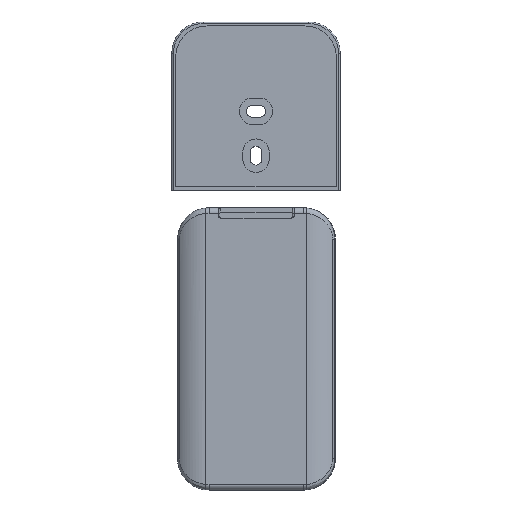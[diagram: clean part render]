
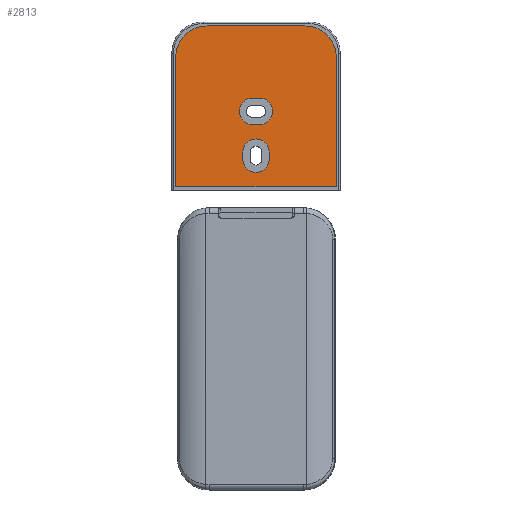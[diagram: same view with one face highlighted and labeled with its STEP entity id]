
A CAD part, front view. The second image highlights one B-rep face of the part: STEP entity #2813.
In plain terms, the highlighted planar face has unit normal (0, -1, 0).
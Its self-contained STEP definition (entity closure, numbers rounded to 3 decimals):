
#137 = EDGE_CURVE ( 'NONE', #12993, #9748, #4459, .T. ) ;
#138 = VECTOR ( 'NONE', #2324, 1000. ) ;
#231 = EDGE_CURVE ( 'NONE', #13705, #2155, #1033, .T. ) ;
#303 = EDGE_CURVE ( 'NONE', #7928, #1134, #5798, .T. ) ;
#368 = CARTESIAN_POINT ( 'NONE',  ( 31.075, 0.75, 10. ) ) ;
#423 = CARTESIAN_POINT ( 'NONE',  ( 11.25, 0.75, 42.5 ) ) ;
#471 = DIRECTION ( 'NONE',  ( -1., 0., 0. ) ) ;
#493 = EDGE_CURVE ( 'NONE', #1277, #12993, #13879, .T. ) ;
#551 = EDGE_CURVE ( 'NONE', #8100, #10896, #3564, .T. ) ;
#567 = EDGE_CURVE ( 'NONE', #10896, #11005, #1774, .T. ) ;
#618 = DIRECTION ( 'NONE',  ( 0., 0., 1. ) ) ;
#694 = DIRECTION ( 'NONE',  ( 1., 0., 0. ) ) ;
#744 = LINE ( 'NONE', #6277, #13115 ) ;
#920 = EDGE_CURVE ( 'NONE', #13806, #7619, #9555, .T. ) ;
#1033 = LINE ( 'NONE', #12011, #138 ) ;
#1052 = AXIS2_PLACEMENT_3D ( 'NONE', #2623, #7934, #9076 ) ;
#1096 = VECTOR ( 'NONE', #12047, 1000. ) ;
#1134 = VERTEX_POINT ( 'NONE', #7498 ) ;
#1277 = VERTEX_POINT ( 'NONE', #4612 ) ;
#1321 = EDGE_LOOP ( 'NONE', ( #4180, #6788, #5573, #4361 ) ) ;
#1367 = DIRECTION ( 'NONE',  ( 0., -1., 0. ) ) ;
#1774 = CIRCLE ( 'NONE', #8971, 4.2 ) ;
#1808 = VERTEX_POINT ( 'NONE', #5285 ) ;
#1838 = CARTESIAN_POINT ( 'NONE',  ( 52.5, 0.75, 1.25 ) ) ;
#1985 = DIRECTION ( 'NONE',  ( 0., 1., 0. ) ) ;
#2009 = CARTESIAN_POINT ( 'NONE',  ( 28., 0.75, 25.25 ) ) ;
#2155 = VERTEX_POINT ( 'NONE', #8448 ) ;
#2324 = DIRECTION ( 'NONE',  ( 0., 0., 1. ) ) ;
#2394 = ORIENTED_EDGE ( 'NONE', *, *, #8987, .F. ) ;
#2600 = ORIENTED_EDGE ( 'NONE', *, *, #4594, .T. ) ;
#2623 = CARTESIAN_POINT ( 'NONE',  ( 26.875, 0.75, 10. ) ) ;
#2751 = ORIENTED_EDGE ( 'NONE', *, *, #493, .F. ) ;
#2813 = ADVANCED_FACE ( 'NONE', ( #12809, #12952, #3263 ), #7586, .F. ) ;
#3113 = AXIS2_PLACEMENT_3D ( 'NONE', #2009, #5421, #10656 ) ;
#3263 = FACE_OUTER_BOUND ( 'NONE', #3693, .T. ) ;
#3564 = LINE ( 'NONE', #7742, #1096 ) ;
#3625 = ORIENTED_EDGE ( 'NONE', *, *, #231, .F. ) ;
#3693 = EDGE_LOOP ( 'NONE', ( #4208, #4481, #11178, #2600, #12225, #5404 ) ) ;
#3778 = EDGE_CURVE ( 'NONE', #7619, #7928, #6759, .T. ) ;
#3864 = CARTESIAN_POINT ( 'NONE',  ( 1.25, 0.75, 1.25 ) ) ;
#4089 = CARTESIAN_POINT ( 'NONE',  ( 1.25, 0.75, 42.5 ) ) ;
#4180 = ORIENTED_EDGE ( 'NONE', *, *, #567, .F. ) ;
#4208 = ORIENTED_EDGE ( 'NONE', *, *, #3778, .T. ) ;
#4361 = ORIENTED_EDGE ( 'NONE', *, *, #7147, .F. ) ;
#4459 = CIRCLE ( 'NONE', #7854, 4.2 ) ;
#4481 = ORIENTED_EDGE ( 'NONE', *, *, #303, .T. ) ;
#4525 = CIRCLE ( 'NONE', #6317, 4.2 ) ;
#4552 = CARTESIAN_POINT ( 'NONE',  ( 26.875, 0.75, 5.8 ) ) ;
#4594 = EDGE_CURVE ( 'NONE', #7039, #13025, #5724, .T. ) ;
#4612 = CARTESIAN_POINT ( 'NONE',  ( 22.675, 0.75, 12.25 ) ) ;
#5169 = AXIS2_PLACEMENT_3D ( 'NONE', #6439, #12869, #10760 ) ;
#5282 = CARTESIAN_POINT ( 'NONE',  ( 52.5, 0.75, 42.5 ) ) ;
#5285 = CARTESIAN_POINT ( 'NONE',  ( 28., 0.75, 21.05 ) ) ;
#5404 = ORIENTED_EDGE ( 'NONE', *, *, #920, .T. ) ;
#5421 = DIRECTION ( 'NONE',  ( 0., -1., 0. ) ) ;
#5573 = ORIENTED_EDGE ( 'NONE', *, *, #11583, .F. ) ;
#5683 = CARTESIAN_POINT ( 'NONE',  ( 25.75, 0.75, 29.45 ) ) ;
#5724 = LINE ( 'NONE', #3864, #13210 ) ;
#5798 = LINE ( 'NONE', #12155, #6955 ) ;
#5935 = EDGE_LOOP ( 'NONE', ( #2394, #3625, #12272, #10941, #2751 ) ) ;
#6018 = DIRECTION ( 'NONE',  ( 0., -1., 0. ) ) ;
#6054 = CARTESIAN_POINT ( 'NONE',  ( 28., 0.75, 29.45 ) ) ;
#6277 = CARTESIAN_POINT ( 'NONE',  ( 1.25, 0.75, 1.25 ) ) ;
#6314 = DIRECTION ( 'NONE',  ( 1., 0., 0. ) ) ;
#6317 = AXIS2_PLACEMENT_3D ( 'NONE', #7278, #6018, #8338 ) ;
#6439 = CARTESIAN_POINT ( 'NONE',  ( 42.5, 0.75, 42.5 ) ) ;
#6531 = CARTESIAN_POINT ( 'NONE',  ( 42.5, 0.75, 42.5 ) ) ;
#6535 = CIRCLE ( 'NONE', #3113, 4.2 ) ;
#6759 = CIRCLE ( 'NONE', #5169, 10. ) ;
#6782 = CARTESIAN_POINT ( 'NONE',  ( 42.5, 0.75, 52.5 ) ) ;
#6788 = ORIENTED_EDGE ( 'NONE', *, *, #551, .F. ) ;
#6814 = CARTESIAN_POINT ( 'NONE',  ( 22.675, 0.75, 10. ) ) ;
#6929 = EDGE_CURVE ( 'NONE', #9748, #13705, #7170, .T. ) ;
#6955 = VECTOR ( 'NONE', #471, 1000. ) ;
#6963 = VECTOR ( 'NONE', #694, 1000. ) ;
#7039 = VERTEX_POINT ( 'NONE', #4089 ) ;
#7147 = EDGE_CURVE ( 'NONE', #11005, #1808, #13717, .T. ) ;
#7170 = CIRCLE ( 'NONE', #1052, 4.2 ) ;
#7267 = DIRECTION ( 'NONE',  ( 1., 0., 0. ) ) ;
#7278 = CARTESIAN_POINT ( 'NONE',  ( 26.875, 0.75, 12.25 ) ) ;
#7300 = DIRECTION ( 'NONE',  ( 0., 0., -1. ) ) ;
#7498 = CARTESIAN_POINT ( 'NONE',  ( 11.25, 0.75, 52.5 ) ) ;
#7586 = PLANE ( 'NONE',  #11036 ) ;
#7619 = VERTEX_POINT ( 'NONE', #5282 ) ;
#7670 = CARTESIAN_POINT ( 'NONE',  ( 25.75, 0.75, 25.25 ) ) ;
#7742 = CARTESIAN_POINT ( 'NONE',  ( 25.75, 0.75, 29.45 ) ) ;
#7854 = AXIS2_PLACEMENT_3D ( 'NONE', #11494, #13876, #7300 ) ;
#7928 = VERTEX_POINT ( 'NONE', #6782 ) ;
#7934 = DIRECTION ( 'NONE',  ( 0., -1., 0. ) ) ;
#8100 = VERTEX_POINT ( 'NONE', #6054 ) ;
#8338 = DIRECTION ( 'NONE',  ( 0., 0., 1. ) ) ;
#8448 = CARTESIAN_POINT ( 'NONE',  ( 31.075, 0.75, 12.25 ) ) ;
#8971 = AXIS2_PLACEMENT_3D ( 'NONE', #7670, #1367, #10019 ) ;
#8987 = EDGE_CURVE ( 'NONE', #2155, #1277, #4525, .T. ) ;
#9012 = CIRCLE ( 'NONE', #11710, 10. ) ;
#9076 = DIRECTION ( 'NONE',  ( 0., 0., -1. ) ) ;
#9555 = LINE ( 'NONE', #1838, #11639 ) ;
#9682 = CARTESIAN_POINT ( 'NONE',  ( 25.75, 0.75, 21.05 ) ) ;
#9748 = VERTEX_POINT ( 'NONE', #4552 ) ;
#10019 = DIRECTION ( 'NONE',  ( 0., 0., -1. ) ) ;
#10234 = VECTOR ( 'NONE', #10645, 1000. ) ;
#10248 = DIRECTION ( 'NONE',  ( 0., 0., -1. ) ) ;
#10542 = EDGE_CURVE ( 'NONE', #13025, #13806, #744, .T. ) ;
#10645 = DIRECTION ( 'NONE',  ( 0., 0., -1. ) ) ;
#10656 = DIRECTION ( 'NONE',  ( 0., 0., 1. ) ) ;
#10760 = DIRECTION ( 'NONE',  ( 0., 0., 1. ) ) ;
#10787 = CARTESIAN_POINT ( 'NONE',  ( 22.675, 0.75, 12.25 ) ) ;
#10896 = VERTEX_POINT ( 'NONE', #5683 ) ;
#10941 = ORIENTED_EDGE ( 'NONE', *, *, #137, .F. ) ;
#11005 = VERTEX_POINT ( 'NONE', #9682 ) ;
#11036 = AXIS2_PLACEMENT_3D ( 'NONE', #6531, #1985, #6314 ) ;
#11178 = ORIENTED_EDGE ( 'NONE', *, *, #13142, .T. ) ;
#11494 = CARTESIAN_POINT ( 'NONE',  ( 26.875, 0.75, 10. ) ) ;
#11583 = EDGE_CURVE ( 'NONE', #1808, #8100, #6535, .T. ) ;
#11639 = VECTOR ( 'NONE', #13937, 1000. ) ;
#11710 = AXIS2_PLACEMENT_3D ( 'NONE', #423, #13377, #618 ) ;
#12011 = CARTESIAN_POINT ( 'NONE',  ( 31.075, 0.75, 12.25 ) ) ;
#12047 = DIRECTION ( 'NONE',  ( -1., 0., 0. ) ) ;
#12155 = CARTESIAN_POINT ( 'NONE',  ( 11.25, 0.75, 52.5 ) ) ;
#12193 = CARTESIAN_POINT ( 'NONE',  ( 52.5, 0.75, 1.25 ) ) ;
#12225 = ORIENTED_EDGE ( 'NONE', *, *, #10542, .T. ) ;
#12272 = ORIENTED_EDGE ( 'NONE', *, *, #6929, .F. ) ;
#12648 = CARTESIAN_POINT ( 'NONE',  ( 25.75, 0.75, 21.05 ) ) ;
#12809 = FACE_BOUND ( 'NONE', #5935, .T. ) ;
#12869 = DIRECTION ( 'NONE',  ( 0., -1., 0. ) ) ;
#12952 = FACE_BOUND ( 'NONE', #1321, .T. ) ;
#12993 = VERTEX_POINT ( 'NONE', #6814 ) ;
#13025 = VERTEX_POINT ( 'NONE', #13442 ) ;
#13115 = VECTOR ( 'NONE', #7267, 1000. ) ;
#13142 = EDGE_CURVE ( 'NONE', #1134, #7039, #9012, .T. ) ;
#13210 = VECTOR ( 'NONE', #10248, 1000. ) ;
#13377 = DIRECTION ( 'NONE',  ( 0., -1., 0. ) ) ;
#13442 = CARTESIAN_POINT ( 'NONE',  ( 1.25, 0.75, 1.25 ) ) ;
#13705 = VERTEX_POINT ( 'NONE', #368 ) ;
#13717 = LINE ( 'NONE', #12648, #6963 ) ;
#13806 = VERTEX_POINT ( 'NONE', #12193 ) ;
#13876 = DIRECTION ( 'NONE',  ( 0., -1., 0. ) ) ;
#13879 = LINE ( 'NONE', #10787, #10234 ) ;
#13937 = DIRECTION ( 'NONE',  ( 0., 0., 1. ) ) ;
